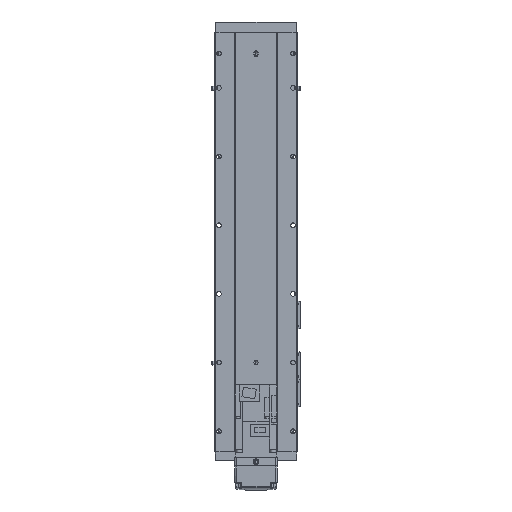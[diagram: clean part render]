
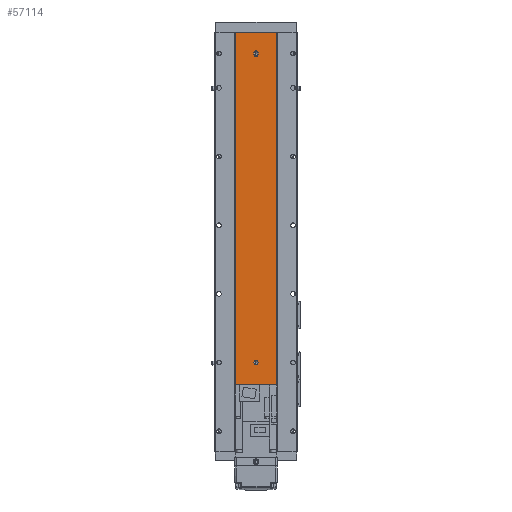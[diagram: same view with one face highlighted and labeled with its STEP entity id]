
A CAD part, front view. The second image highlights one B-rep face of the part: STEP entity #57114.
In plain terms, the highlighted planar face has unit normal (0, -1, 0).
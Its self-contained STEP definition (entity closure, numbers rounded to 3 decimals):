
#1386 = VERTEX_POINT ( 'NONE', #46575 ) ;
#2495 = CARTESIAN_POINT ( 'NONE',  ( 3., 1., 579. ) ) ;
#4696 = DIRECTION ( 'NONE',  ( 0., -1., 0. ) ) ;
#4808 = VERTEX_POINT ( 'NONE', #2495 ) ;
#4920 = VERTEX_POINT ( 'NONE', #8409 ) ;
#5994 = DIRECTION ( 'NONE',  ( 1., 0., 0. ) ) ;
#7565 = VECTOR ( 'NONE', #20652, 1000. ) ;
#7899 = EDGE_CURVE ( 'NONE', #11743, #4808, #26294, .T. ) ;
#8409 = CARTESIAN_POINT ( 'NONE',  ( -30., 1., 0. ) ) ;
#8738 = CARTESIAN_POINT ( 'NONE',  ( 0., 1., 30. ) ) ;
#9030 = EDGE_LOOP ( 'NONE', ( #49319, #44846 ) ) ;
#9213 = CARTESIAN_POINT ( 'NONE',  ( 0., 1., 33. ) ) ;
#9950 = AXIS2_PLACEMENT_3D ( 'NONE', #8738, #37848, #43523 ) ;
#10189 = CARTESIAN_POINT ( 'NONE',  ( -30., 1., 611. ) ) ;
#10571 = DIRECTION ( 'NONE',  ( 0., 0., -1. ) ) ;
#10778 = CARTESIAN_POINT ( 'NONE',  ( 0., 1., 130. ) ) ;
#11295 = CARTESIAN_POINT ( 'NONE',  ( 0., 1., 127. ) ) ;
#11743 = VERTEX_POINT ( 'NONE', #21286 ) ;
#12152 = AXIS2_PLACEMENT_3D ( 'NONE', #57756, #4696, #48528 ) ;
#14242 = VERTEX_POINT ( 'NONE', #9213 ) ;
#14356 = VERTEX_POINT ( 'NONE', #44868 ) ;
#15194 = VECTOR ( 'NONE', #5994, 1000. ) ;
#16154 = VERTEX_POINT ( 'NONE', #18565 ) ;
#16318 = VECTOR ( 'NONE', #52498, 1000. ) ;
#16536 = EDGE_LOOP ( 'NONE', ( #24020, #32936 ) ) ;
#18565 = CARTESIAN_POINT ( 'NONE',  ( -3., 1., 579. ) ) ;
#18970 = DIRECTION ( 'NONE',  ( 0., -1., 0. ) ) ;
#19308 = ORIENTED_EDGE ( 'NONE', *, *, #28593, .T. ) ;
#20038 = ORIENTED_EDGE ( 'NONE', *, *, #31961, .T. ) ;
#20495 = VECTOR ( 'NONE', #37854, 1000. ) ;
#20632 = AXIS2_PLACEMENT_3D ( 'NONE', #26042, #45839, #50874 ) ;
#20652 = DIRECTION ( 'NONE',  ( 0., 0., -1. ) ) ;
#20672 = DIRECTION ( 'NONE',  ( 0., -1., 0. ) ) ;
#21252 = CARTESIAN_POINT ( 'NONE',  ( -30., 1., 0. ) ) ;
#21286 = CARTESIAN_POINT ( 'NONE',  ( 0., 1., 576. ) ) ;
#21717 = EDGE_LOOP ( 'NONE', ( #20038, #32393, #62296, #19308 ) ) ;
#22740 = DIRECTION ( 'NONE',  ( 0., -1., 0. ) ) ;
#22890 = LINE ( 'NONE', #21252, #25928 ) ;
#24020 = ORIENTED_EDGE ( 'NONE', *, *, #34852, .F. ) ;
#24084 = CIRCLE ( 'NONE', #12152, 3. ) ;
#24179 = VECTOR ( 'NONE', #41968, 1000. ) ;
#25928 = VECTOR ( 'NONE', #26801, 1000. ) ;
#26013 = VERTEX_POINT ( 'NONE', #45432 ) ;
#26042 = CARTESIAN_POINT ( 'NONE',  ( -30., 1., 611. ) ) ;
#26294 = CIRCLE ( 'NONE', #29097, 3. ) ;
#26801 = DIRECTION ( 'NONE',  ( 1., 0., 0. ) ) ;
#27536 = EDGE_CURVE ( 'NONE', #14242, #26013, #33639, .T. ) ;
#27647 = AXIS2_PLACEMENT_3D ( 'NONE', #41026, #36589, #55914 ) ;
#27924 = CARTESIAN_POINT ( 'NONE',  ( 0., 1., 579. ) ) ;
#28108 = LINE ( 'NONE', #10189, #15194 ) ;
#28224 = DIRECTION ( 'NONE',  ( 0., -1., 0. ) ) ;
#28593 = EDGE_CURVE ( 'NONE', #14356, #4920, #49538, .T. ) ;
#28708 = EDGE_LOOP ( 'NONE', ( #38186, #61232, #46277, #37219, #42456 ) ) ;
#29097 = AXIS2_PLACEMENT_3D ( 'NONE', #27924, #18970, #56926 ) ;
#29756 = CIRCLE ( 'NONE', #27647, 3. ) ;
#29863 = CARTESIAN_POINT ( 'NONE',  ( 30., 1., 611. ) ) ;
#31619 = EDGE_CURVE ( 'NONE', #16154, #11743, #29756, .T. ) ;
#31961 = EDGE_CURVE ( 'NONE', #4920, #1386, #22890, .T. ) ;
#32393 = ORIENTED_EDGE ( 'NONE', *, *, #57863, .F. ) ;
#32936 = ORIENTED_EDGE ( 'NONE', *, *, #49278, .F. ) ;
#33399 = CARTESIAN_POINT ( 'NONE',  ( -3., 1., 579. ) ) ;
#33639 = CIRCLE ( 'NONE', #46817, 3. ) ;
#34852 = EDGE_CURVE ( 'NONE', #38483, #56428, #24084, .T. ) ;
#35077 = CARTESIAN_POINT ( 'NONE',  ( 3., 1., 581. ) ) ;
#35931 = PLANE ( 'NONE',  #20632 ) ;
#36589 = DIRECTION ( 'NONE',  ( 0., -1., 0. ) ) ;
#36900 = DIRECTION ( 'NONE',  ( 0., 0., -1. ) ) ;
#37219 = ORIENTED_EDGE ( 'NONE', *, *, #37888, .F. ) ;
#37595 = CARTESIAN_POINT ( 'NONE',  ( -30., 1., 611. ) ) ;
#37848 = DIRECTION ( 'NONE',  ( 0., -1., 0. ) ) ;
#37854 = DIRECTION ( 'NONE',  ( 0., 0., 1. ) ) ;
#37888 = EDGE_CURVE ( 'NONE', #44000, #16154, #48270, .T. ) ;
#38186 = ORIENTED_EDGE ( 'NONE', *, *, #49069, .F. ) ;
#38483 = VERTEX_POINT ( 'NONE', #11295 ) ;
#39830 = AXIS2_PLACEMENT_3D ( 'NONE', #10778, #20672, #10571 ) ;
#41026 = CARTESIAN_POINT ( 'NONE',  ( 0., 1., 579. ) ) ;
#41968 = DIRECTION ( 'NONE',  ( 0., 0., -1. ) ) ;
#42081 = CARTESIAN_POINT ( 'NONE',  ( 3., 1., 579. ) ) ;
#42184 = CARTESIAN_POINT ( 'NONE',  ( 30., 1., 611. ) ) ;
#42456 = ORIENTED_EDGE ( 'NONE', *, *, #56086, .F. ) ;
#43523 = DIRECTION ( 'NONE',  ( 0., 0., -1. ) ) ;
#44000 = VERTEX_POINT ( 'NONE', #59988 ) ;
#44846 = ORIENTED_EDGE ( 'NONE', *, *, #27536, .F. ) ;
#44868 = CARTESIAN_POINT ( 'NONE',  ( -30., 1., 611. ) ) ;
#45432 = CARTESIAN_POINT ( 'NONE',  ( 0., 1., 27. ) ) ;
#45839 = DIRECTION ( 'NONE',  ( 0., 1., 0. ) ) ;
#46277 = ORIENTED_EDGE ( 'NONE', *, *, #31619, .F. ) ;
#46575 = CARTESIAN_POINT ( 'NONE',  ( 30., 1., 0. ) ) ;
#46817 = AXIS2_PLACEMENT_3D ( 'NONE', #60872, #22740, #36900 ) ;
#46873 = LINE ( 'NONE', #42184, #24179 ) ;
#47388 = CARTESIAN_POINT ( 'NONE',  ( 0., 1., 581. ) ) ;
#47590 = DIRECTION ( 'NONE',  ( 0., 0., -1. ) ) ;
#47745 = AXIS2_PLACEMENT_3D ( 'NONE', #47388, #28224, #47590 ) ;
#48270 = LINE ( 'NONE', #33399, #7565 ) ;
#48528 = DIRECTION ( 'NONE',  ( 0., 0., -1. ) ) ;
#48846 = VERTEX_POINT ( 'NONE', #35077 ) ;
#48893 = EDGE_CURVE ( 'NONE', #14356, #56130, #28108, .T. ) ;
#49069 = EDGE_CURVE ( 'NONE', #4808, #48846, #52227, .T. ) ;
#49278 = EDGE_CURVE ( 'NONE', #56428, #38483, #60414, .T. ) ;
#49319 = ORIENTED_EDGE ( 'NONE', *, *, #61614, .F. ) ;
#49538 = LINE ( 'NONE', #37595, #16318 ) ;
#50874 = DIRECTION ( 'NONE',  ( 0., 0., 1. ) ) ;
#52227 = LINE ( 'NONE', #42081, #20495 ) ;
#52498 = DIRECTION ( 'NONE',  ( 0., 0., -1. ) ) ;
#52597 = CIRCLE ( 'NONE', #9950, 3. ) ;
#55914 = DIRECTION ( 'NONE',  ( 0., 0., -1. ) ) ;
#56086 = EDGE_CURVE ( 'NONE', #48846, #44000, #60548, .T. ) ;
#56130 = VERTEX_POINT ( 'NONE', #29863 ) ;
#56428 = VERTEX_POINT ( 'NONE', #57487 ) ;
#56682 = FACE_BOUND ( 'NONE', #16536, .T. ) ;
#56926 = DIRECTION ( 'NONE',  ( 0., 0., -1. ) ) ;
#57114 = ADVANCED_FACE ( 'NONE', ( #58166, #56682, #61991, #60485 ), #35931, .F. ) ;
#57487 = CARTESIAN_POINT ( 'NONE',  ( 0., 1., 133. ) ) ;
#57756 = CARTESIAN_POINT ( 'NONE',  ( 0., 1., 130. ) ) ;
#57863 = EDGE_CURVE ( 'NONE', #56130, #1386, #46873, .T. ) ;
#58166 = FACE_BOUND ( 'NONE', #28708, .T. ) ;
#59988 = CARTESIAN_POINT ( 'NONE',  ( -3., 1., 581. ) ) ;
#60414 = CIRCLE ( 'NONE', #39830, 3. ) ;
#60485 = FACE_OUTER_BOUND ( 'NONE', #21717, .T. ) ;
#60548 = CIRCLE ( 'NONE', #47745, 3. ) ;
#60872 = CARTESIAN_POINT ( 'NONE',  ( 0., 1., 30. ) ) ;
#61232 = ORIENTED_EDGE ( 'NONE', *, *, #7899, .F. ) ;
#61614 = EDGE_CURVE ( 'NONE', #26013, #14242, #52597, .T. ) ;
#61991 = FACE_BOUND ( 'NONE', #9030, .T. ) ;
#62296 = ORIENTED_EDGE ( 'NONE', *, *, #48893, .F. ) ;
